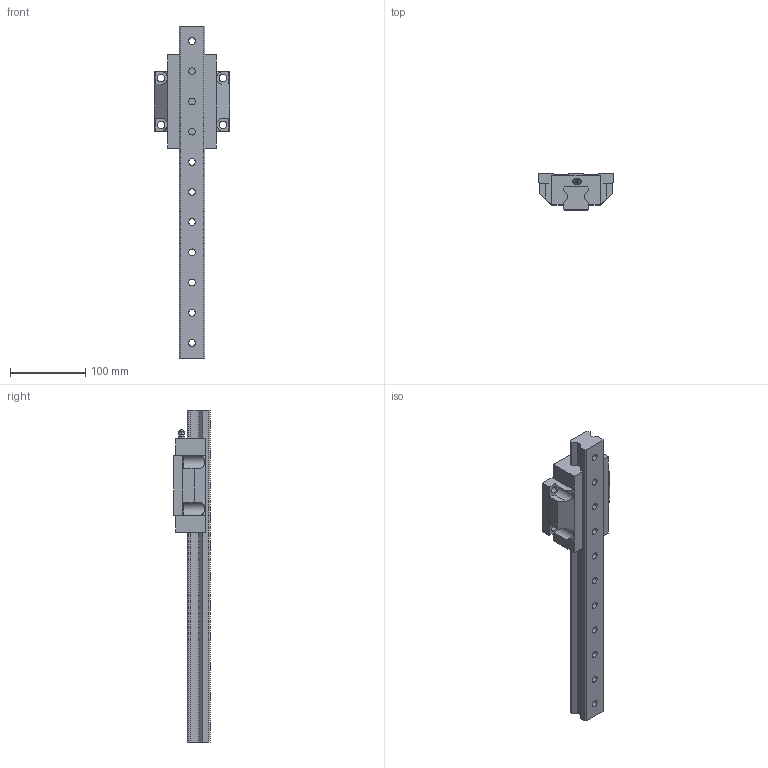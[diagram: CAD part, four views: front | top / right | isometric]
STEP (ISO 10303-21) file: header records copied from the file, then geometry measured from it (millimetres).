
FILE_DESCRIPTION(('STEP AP214'),'1');
FILE_NAME('D:/ModelConvertServices/Model.002/SVC.ACISConvertServices002/output/762b7852-521c-4ab3-99aa-7350dabaad64/1_RGW35CC1R440ZOH.step','2022-07-23T04:36:15',(' '),(' '),'Spatial InterOp 3D',' ',' ');
FILE_SCHEMA(('automotive_design'));
Length unit declared in the file: millimetre
Products named in the file (2): 1; 2
Bounding box: 100 x 48 x 440 mm (x, y, z)
Volume: 665185.6 mm3; surface area: 117889.8 mm2
Topology: 2 solids, 2 shells, 272 faces, 691 edges, 448 vertices
Faces by surface type: plane 140, cylinder 100, cone 30, sphere 2
Entity records: 10504 total; most frequent: CARTESIAN_POINT 1571, DIRECTION 1425, ORIENTED_EDGE 1378, EDGE_CURVE 689, AXIS2_PLACEMENT_3D 510, VERTEX_POINT 448, LINE 405, VECTOR 405
